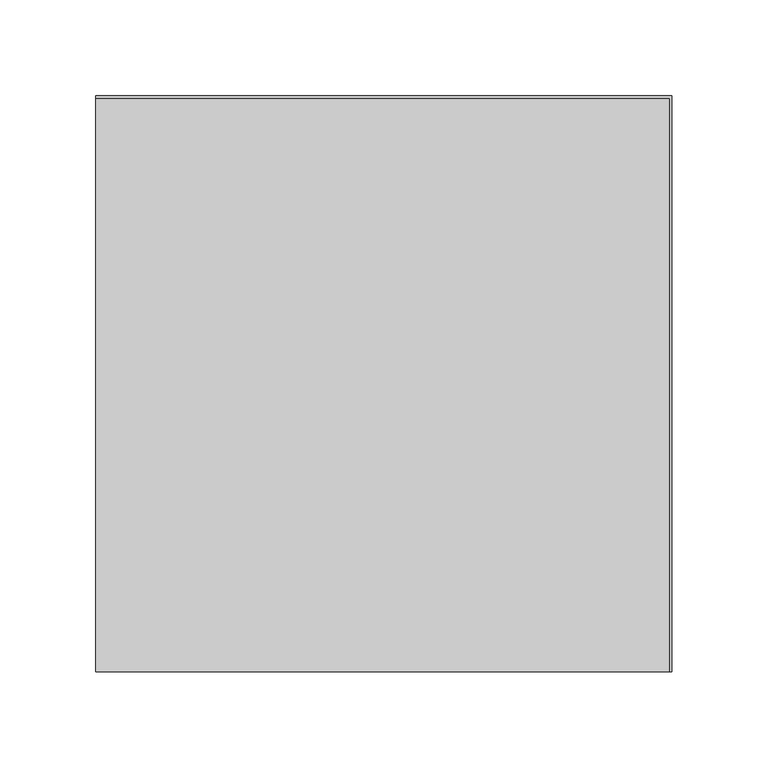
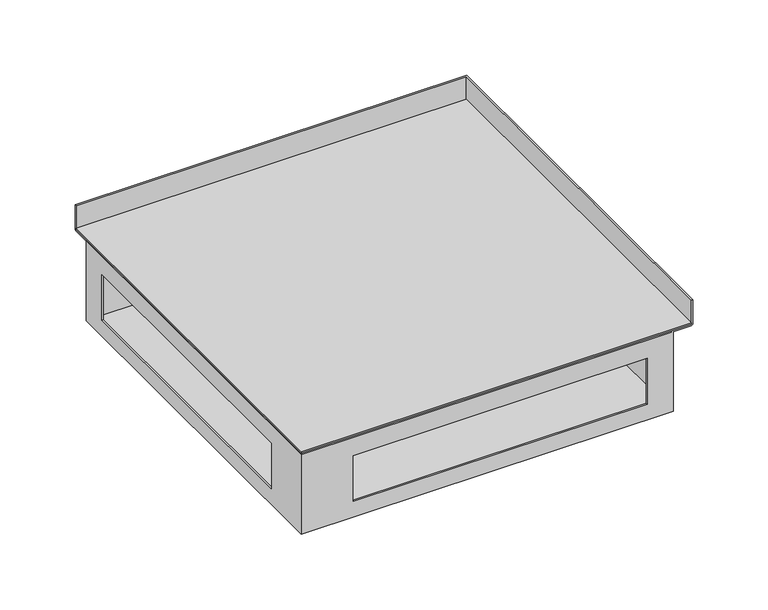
"""IFC4 building model written with IfcOpenShell, lengths in millimetres: proxy geometry, TECHNO_Угловой элемент_KVU : 300_085_90°."""

from ifc_helpers import new_model, si_unit, frame, origin, place, context, project, spatial, polyline, circle_curve, ellipse_curve, outline, extrude, source, transform, mapped, element, save
from ifc_brep_helpers import plane_surface, cylinder_surface, advanced_brep


def mechanical_equipment_5477d933(model_context):
    return source(origin(), model_context, "Body", "SolidModel", [
        extrude(outline(polyline([(0.0, 148.8), (298.8, 148.8), (298.8, -150.0), (0.0, -150.0), (0.0, 148.8)])), frame((0.0, 0.0, -19.3), z_axis=(0.0, 0.0, 1.0), x_axis=(1.0, 0.0, 0.0)), (0.0, 0.0, 1.0), 1.2),
        advanced_brep(
        [(1.2, 134.0, -83.8), (1.2, -148.8, -83.8), (284.0, -148.8, -83.8), (284.0, 134.0, -83.8), (0.0, 135.2, -85.0), (285.2, 135.2, -85.0), (285.2, -150.0, -85.0), (0.0, -150.0, -85.0), (0.0, 135.2, -20.5), (0.0, -150.0, -20.5), (0.0, 134.0, -20.5), (0.0, 135.2, -19.3), (0.0, 148.8, -19.3), (0.0, 148.8, 0.0), (0.0, 150.0, 0.0), (0.0, 150.0, -19.3), (0.0, 148.8, -20.5), (0.0, -110.0, -35.3), (0.0, -110.0, -72.3), (0.0, 115.0, -72.3), (0.0, 115.0, -35.3), (285.2, -150.0, -20.5), (298.8, -150.0, -20.5), (300.0, -150.0, -19.3), (300.0, -150.0, 0.0), (298.8, -150.0, 0.0), (298.8, -150.0, -19.3), (285.2, -150.0, -19.3), (284.0, -150.0, -20.5), (40.0, -150.0, -72.3), (40.0, -150.0, -35.3), (265.0, -150.0, -35.3), (265.0, -150.0, -72.3), (285.2, 135.2, -20.5), (1.2, 135.2, -19.3), (1.2, -148.8, -19.3), (285.2, -148.8, -19.3), (298.8, 148.8, -19.3), (285.2, -134.0, -19.3), (16.0, -134.0, -19.3), (16.0, 135.2, -19.3), (285.2, 135.2, -19.3), (16.0, -134.0, -20.5), (16.0, 134.0, -20.5), (284.0, -134.0, -20.5), (284.0, -148.8, -20.5), (1.2, -148.8, -20.5), (1.2, 134.0, -20.5), (1.2, -110.0, -72.3), (1.2, -110.0, -35.3), (1.2, 115.0, -35.3), (1.2, 115.0, -72.3), (40.0, -148.8, -35.3), (40.0, -148.8, -72.3), (265.0, -148.8, -72.3), (265.0, -148.8, -35.3), (300.0, 150.0, -19.3), (300.0, 150.0, 0.0), (298.8, 148.8, 0.0), (298.8, 148.8, -20.5), (284.0, 134.0, -20.5)],
        [
            (0, 1),
            (1, 2),
            (2, 3),
            (3, 0),
            (4, 5),
            (5, 6),
            (6, 7),
            (7, 4),
            (8, 4),
            (7, 9),
            (9, 10),
            (10, 11, circle_curve(frame((0.0, 135.2, -20.5), z_axis=(-1.0, 0.0, 0.0), x_axis=(0.0, -1.0, 0.0)), 1.2)),
            (11, 12),
            (12, 13),
            (13, 14),
            (14, 15),
            (15, 16, circle_curve(frame((0.0, 148.8, -19.3), z_axis=(-1.0, 0.0, 0.0), x_axis=(0.0, -1.0, 0.0)), 1.2)),
            (16, 8),
            (17, 18),
            (18, 19),
            (19, 20),
            (20, 17),
            (6, 21),
            (21, 22),
            (22, 23, circle_curve(frame((298.8, -150.0, -19.3), z_axis=(0.0, -1.0, 0.0), x_axis=(-1.0, 0.0, 0.0)), 1.2)),
            (23, 24),
            (24, 25),
            (25, 26),
            (26, 27),
            (27, 28, circle_curve(frame((285.2, -150.0, -20.5), z_axis=(0.0, -1.0, 0.0), x_axis=(-1.0, 0.0, 0.0)), 1.2)),
            (28, 9),
            (29, 30),
            (30, 31),
            (31, 32),
            (32, 29),
            (8, 33),
            (33, 5),
            (33, 21),
            (34, 35),
            (35, 36),
            (36, 27),
            (26, 37),
            (37, 12),
            (11, 34),
            (38, 39),
            (39, 40),
            (40, 41),
            (41, 38),
            (39, 42),
            (42, 43),
            (43, 40, circle_curve(frame((16.0, 135.2, -20.5), z_axis=(-1.0, 0.0, 0.0), x_axis=(0.0, -1.0, 0.0)), 1.2)),
            (38, 44, circle_curve(frame((285.2, -134.0, -20.5), z_axis=(0.0, -1.0, 0.0), x_axis=(-1.0, 0.0, 0.0)), 1.2)),
            (44, 42),
            (44, 45),
            (45, 46),
            (46, 47),
            (47, 43),
            (46, 1),
            (0, 47),
            (48, 49),
            (49, 50),
            (50, 51),
            (51, 48),
            (45, 2),
            (52, 53),
            (53, 54),
            (54, 55),
            (55, 52),
            (34, 10, ellipse_curve(frame((1.2, 135.2, -20.5), z_axis=(0.7071067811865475, -0.7071067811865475, 0.0), x_axis=(0.7071067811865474, 0.7071067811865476, 0.0)), 1.6970563, 1.2)),
            (9, 35, ellipse_curve(frame((1.2, -148.8, -20.5), z_axis=(-0.7071067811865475, 0.7071067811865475, 0.0), x_axis=(0.7071067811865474, 0.7071067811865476, 0.0)), 1.6970563, 1.2)),
            (28, 36, ellipse_curve(frame((285.2, -148.8, -20.5), z_axis=(-0.7071067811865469, 0.707106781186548, 0.0), x_axis=(-0.7071067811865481, -0.7071067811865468, 0.0)), 1.6970563, 1.2)),
            (23, 56),
            (56, 57),
            (57, 24),
            (57, 14),
            (13, 58),
            (58, 25),
            (58, 37),
            (16, 59),
            (59, 22),
            (59, 56, ellipse_curve(frame((298.8, 148.8, -19.3), z_axis=(0.7071067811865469, -0.707106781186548, 0.0), x_axis=(-0.7071067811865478, -0.707106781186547, 0.0)), 1.6970563, 1.2)),
            (56, 15),
            (41, 60, ellipse_curve(frame((285.2, 135.2, -20.5), z_axis=(0.7071067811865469, -0.707106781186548, 0.0), x_axis=(-0.7071067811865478, -0.707106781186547, 0.0)), 1.6970563, 1.2)),
            (60, 44),
            (60, 3),
            (43, 60),
            (48, 18),
            (17, 49),
            (51, 19),
            (50, 20),
            (52, 30),
            (29, 53),
            (55, 31),
            (54, 32),
        ],
        [
            plane_surface(frame((0.0, 134.0, -83.8), z_axis=(0.0, 0.0, 1.0), x_axis=(0.0, -1.0, 0.0))),
            plane_surface(frame((0.0, 134.0, -85.0), z_axis=(0.0, 0.0, -1.0), x_axis=(0.0, 1.0, 0.0))),
            plane_surface(frame((0.0, 134.0, -83.8), z_axis=(-1.0, 0.0, 0.0), x_axis=(0.0, 0.0, -1.0))),
            plane_surface(frame((0.0, -150.0, -83.8), z_axis=(0.0, -1.0, 0.0), x_axis=(0.0, 0.0, -1.0))),
            plane_surface(frame((0.0, 135.2, -85.0), z_axis=(0.0, 1.0, 0.0), x_axis=(0.0, 0.0, -1.0))),
            plane_surface(frame((285.2, -150.0, -85.0), z_axis=(1.0, 0.0, 0.0), x_axis=(0.0, 0.0, -1.0))),
            plane_surface(frame((1.2, 135.2, -19.3), z_axis=(0.0, 0.0, 1.0), x_axis=(0.0, -1.0, 0.0))),
            plane_surface(frame((16.0, 135.2, -19.3), z_axis=(1.0, 0.0, 0.0), x_axis=(0.0, -1.0, 0.0))),
            plane_surface(frame((16.0, -134.0, -19.3), z_axis=(0.0, 1.0, 0.0), x_axis=(1.0, 0.0, 0.0))),
            plane_surface(frame((16.0, 135.2, -20.5), z_axis=(0.0, 0.0, -1.0), x_axis=(0.0, -1.0, 0.0))),
            plane_surface(frame((1.2, 135.2, -20.5), z_axis=(1.0, 0.0, 0.0), x_axis=(0.0, -1.0, 0.0))),
            plane_surface(frame((1.2, -148.8, -20.5), z_axis=(0.0, 1.0, 0.0), x_axis=(1.0, 0.0, 0.0))),
            cylinder_surface(frame((1.2, 135.2, -20.5), z_axis=(0.0, 1.0, 0.0), x_axis=(-1.0, 0.0, 0.0)), 1.2),
            cylinder_surface(frame((0.0, -148.8, -20.5), z_axis=(-1.0, 0.0, 0.0), x_axis=(0.0, -1.0, 0.0)), 1.2),
            plane_surface(frame((300.0, -150.0, -19.3), z_axis=(1.0, 0.0, 0.0), x_axis=(0.0, 1.0, 0.0))),
            plane_surface(frame((300.0, -150.0, 0.0), z_axis=(0.0, 0.0, 1.0), x_axis=(0.0, 1.0, 0.0))),
            plane_surface(frame((298.8, -150.0, 0.0), z_axis=(-1.0, 0.0, 0.0), x_axis=(0.0, 1.0, 0.0))),
            plane_surface(frame((285.2, -150.0, -20.5), z_axis=(0.0, 0.0, -1.0), x_axis=(0.0, 1.0, 0.0))),
            cylinder_surface(frame((298.8, -150.0, -19.3), z_axis=(0.0, -1.0, 0.0), x_axis=(-1.0, 0.0, 0.0)), 1.2),
            plane_surface(frame((300.0, 150.0, -19.3), z_axis=(0.0, 1.0, 0.0), x_axis=(-1.0, 0.0, 0.0))),
            plane_surface(frame((298.8, 148.8, 0.0), z_axis=(0.0, -1.0, 0.0), x_axis=(-1.0, 0.0, 0.0))),
            cylinder_surface(frame((150.0, 148.8, -19.3), z_axis=(1.0, 0.0, 0.0), x_axis=(0.0, -1.0, 0.0)), 1.2),
            cylinder_surface(frame((285.2, -150.0, -20.5), z_axis=(0.0, -1.0, 0.0), x_axis=(-1.0, 0.0, 0.0)), 1.2),
            plane_surface(frame((284.0, -150.0, -20.5), z_axis=(-1.0, 0.0, 0.0), x_axis=(0.0, 1.0, 0.0))),
            cylinder_surface(frame((150.0, 135.2, -20.5), z_axis=(1.0, 0.0, 0.0), x_axis=(0.0, -1.0, 0.0)), 1.2),
            plane_surface(frame((284.0, 134.0, -20.5), z_axis=(0.0, -1.0, 0.0), x_axis=(-1.0, 0.0, 0.0))),
            plane_surface(frame((1.2, -110.0, -35.3), z_axis=(0.0, 1.0, 0.0), x_axis=(-1.0, 0.0, 0.0))),
            plane_surface(frame((1.2, -110.0, -72.3), z_axis=(0.0, 0.0, 1.0), x_axis=(-1.0, 0.0, 0.0))),
            plane_surface(frame((1.2, 115.0, -72.3), z_axis=(0.0, -1.0, 0.0), x_axis=(-1.0, 0.0, 0.0))),
            plane_surface(frame((1.2, 115.0, -35.3), z_axis=(0.0, 0.0, -1.0), x_axis=(-1.0, 0.0, 0.0))),
            plane_surface(frame((40.0, -148.8, -72.3), z_axis=(1.0, 0.0, 0.0), x_axis=(0.0, -1.0, 0.0))),
            plane_surface(frame((40.0, -148.8, -35.3), z_axis=(0.0, 0.0, -1.0), x_axis=(0.0, -1.0, 0.0))),
            plane_surface(frame((265.0, -148.8, -35.3), z_axis=(-1.0, 0.0, 0.0), x_axis=(0.0, -1.0, 0.0))),
            plane_surface(frame((265.0, -148.8, -72.3), z_axis=(0.0, 0.0, 1.0), x_axis=(0.0, -1.0, 0.0))),
        ],
        [
            (0, [[1, 2, 3, 4]]),
            (1, [[5, 6, 7, 8]]),
            (2, [[9, -8, 10, 11, 12, 13, 14, 15, 16, 17, 18], [19, 20, 21, 22]]),
            (3, [[23, 24, 25, 26, 27, 28, 29, 30, 31, -10, -7], [32, 33, 34, 35]]),
            (4, [[-9, 36, 37, -5]]),
            (5, [[-23, -6, -37, 38]]),
            (6, [[39, 40, 41, -29, 42, 43, -13, 44], [45, 46, 47, 48]]),
            (7, [[-46, 49, 50, 51]]),
            (8, [[-45, 52, 53, -49]]),
            (9, [[-50, -53, 54, 55, 56, 57]]),
            (10, [[58, -1, 59, -56], [60, 61, 62, 63]]),
            (11, [[-58, -55, 64, -2], [65, 66, 67, 68]]),
            (12, [[-39, 69, -11, 70]]),
            (13, [[-40, -70, -31, 71]]),
            (14, [[-26, 72, 73, 74]]),
            (15, [[-27, -74, 75, -15, 76, 77]]),
            (16, [[-28, -77, 78, -42]]),
            (17, [[-24, -38, -36, -18, 79, 80]]),
            (18, [[-25, -80, 81, -72]]),
            (19, [[-73, 82, -16, -75]]),
            (20, [[-76, -14, -43, -78]]),
            (21, [[-79, -17, -82, -81]]),
            (22, [[-30, -41, -71]]),
            (22, [[83, 84, -52, -48]]),
            (23, [[85, -3, -64, -54, -84]]),
            (24, [[-12, -69, -44]]),
            (24, [[-83, -47, -51, 86]]),
            (25, [[-85, -86, -57, -59, -4]]),
            (26, [[87, -19, 88, -60]]),
            (27, [[-87, -63, 89, -20]]),
            (28, [[-89, -62, 90, -21]]),
            (29, [[-88, -22, -90, -61]]),
            (30, [[91, -32, 92, -65]]),
            (31, [[-91, -68, 93, -33]]),
            (32, [[-93, -67, 94, -34]]),
            (33, [[-92, -35, -94, -66]]),
        ],
    ),
    ])


if __name__ == "__main__":
    model = new_model("IFC4")
    model_context = context("Model", 3, world=origin())
    ifc_project = project(units=[si_unit("LENGTHUNIT", "METRE", prefix="MILLI")], contexts=[model_context])
    site = spatial("IfcSite", under=ifc_project)
    building = spatial("IfcBuilding", under=site)
    placement = place(None, origin())
    mechanical_equipment_shape = mechanical_equipment_5477d933(model_context)
    element("IfcBuildingElementProxy", 1, Name="TECHNO_Угловой элемент_KVU : 300_085_90°", ObjectType="TECHNO_Угловой элемент_KVU : 300_085_90°", at=placement, inside=building, context=model_context, shape_type="MappedRepresentation", body=[
        mapped(mechanical_equipment_shape, transform((0.0, 0.0, 0.0), x_axis=(1.0, 0.0, 0.0), y_axis=(0.0, 1.0, 0.0), z_axis=(0.0, 0.0, 1.0))),
    ])
    save(model, "model.ifc")
